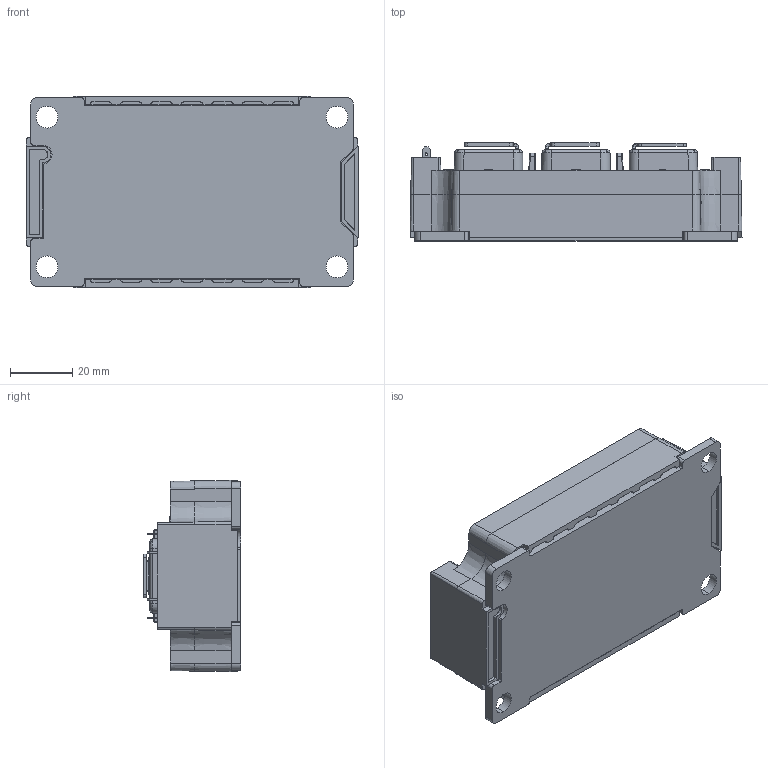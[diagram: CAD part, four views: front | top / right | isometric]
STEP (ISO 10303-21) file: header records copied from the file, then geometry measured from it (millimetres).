
FILE_DESCRIPTION (( 'STEP AP214' ), '1' );
FILE_NAME ('BM3 Module Outline 01.STEP', '2019-09-25T15:15:02', ( '' ), ( '' ), 'SwSTEP 2.0', 'SolidWorks 2018', '' );
FILE_SCHEMA (( 'AUTOMOTIVE_DESIGN' ));
Length unit declared in the file: millimetre
Products named in the file (1): BM3 Module Outline 01
Bounding box: 106.47 x 31.39 x 61.47 mm (x, y, z)
Volume: 122357.1 mm3; surface area: 50975.3 mm2
Topology: 1 solids, 1 shells, 1476 faces, 4069 edges, 2663 vertices
Faces by surface type: plane 898, cylinder 299, bspline 151, cone 128
Entity records: 71157 total; most frequent: CARTESIAN_POINT 19577, ORIENTED_EDGE 8138, DIRECTION 6391, EDGE_CURVE 4069, LINE 2665, VECTOR 2665, VERTEX_POINT 2663, AXIS2_PLACEMENT_3D 1863
